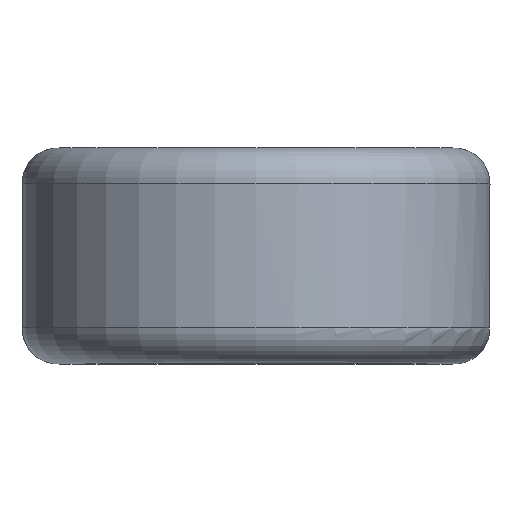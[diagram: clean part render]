
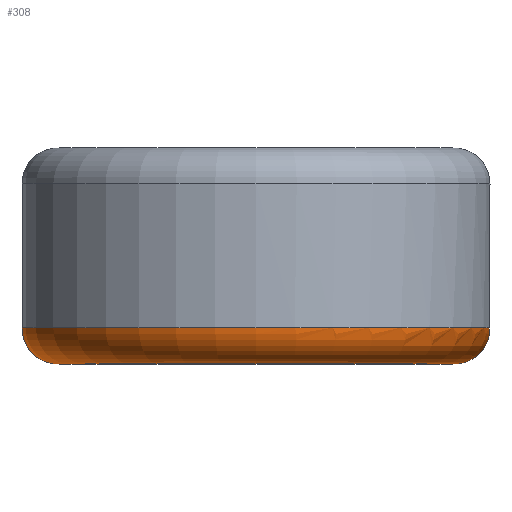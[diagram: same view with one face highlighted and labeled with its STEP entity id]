
A CAD part, top view. The second image highlights one B-rep face of the part: STEP entity #308.
In plain terms, the highlighted toroidal (fillet/blend) face has major radius 5.5 mm and minor radius 1 mm.
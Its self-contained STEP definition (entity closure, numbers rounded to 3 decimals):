
#15=TOROIDAL_SURFACE('',#358,5.5,1.);
#33=B_SPLINE_CURVE_WITH_KNOTS('',3,(#1928,#1929,#1930,#1931),
 .UNSPECIFIED.,.F.,.F.,(4,4),(-0.014,0.),
 .UNSPECIFIED.);
#78=FACE_OUTER_BOUND('',#99,.T.);
#99=EDGE_LOOP('',(#272,#273,#274,#275,#276,#277,#278,#279));
#123=CIRCLE('',#351,6.5);
#124=CIRCLE('',#352,6.5);
#125=CIRCLE('',#353,6.5);
#129=CIRCLE('',#359,5.5);
#130=CIRCLE('',#360,5.5);
#131=CIRCLE('',#361,1.);
#149=VERTEX_POINT('',#1198);
#150=VERTEX_POINT('',#1200);
#151=VERTEX_POINT('',#1202);
#152=VERTEX_POINT('',#1204);
#158=VERTEX_POINT('',#1933);
#159=VERTEX_POINT('',#1934);
#185=EDGE_CURVE('',#149,#150,#123,.T.);
#186=EDGE_CURVE('',#150,#151,#124,.T.);
#188=EDGE_CURVE('',#152,#149,#125,.T.);
#198=EDGE_CURVE('',#152,#151,#33,.T.);
#199=EDGE_CURVE('',#158,#159,#129,.T.);
#200=EDGE_CURVE('',#159,#158,#130,.T.);
#201=EDGE_CURVE('',#159,#150,#131,.T.);
#272=ORIENTED_EDGE('',*,*,#199,.F.);
#273=ORIENTED_EDGE('',*,*,#200,.F.);
#274=ORIENTED_EDGE('',*,*,#201,.T.);
#275=ORIENTED_EDGE('',*,*,#185,.F.);
#276=ORIENTED_EDGE('',*,*,#188,.F.);
#277=ORIENTED_EDGE('',*,*,#198,.T.);
#278=ORIENTED_EDGE('',*,*,#186,.F.);
#279=ORIENTED_EDGE('',*,*,#201,.F.);
#308=ADVANCED_FACE('',(#78),#15,.T.);
#351=AXIS2_PLACEMENT_3D('',#1201,#408,#409);
#352=AXIS2_PLACEMENT_3D('',#1203,#410,#411);
#353=AXIS2_PLACEMENT_3D('',#1317,#412,#413);
#358=AXIS2_PLACEMENT_3D('',#1932,#422,#423);
#359=AXIS2_PLACEMENT_3D('',#1935,#424,#425);
#360=AXIS2_PLACEMENT_3D('',#1936,#426,#427);
#361=AXIS2_PLACEMENT_3D('',#1937,#428,#429);
#408=DIRECTION('center_axis',(0.,1.,0.));
#409=DIRECTION('ref_axis',(-1.,0.,0.));
#410=DIRECTION('center_axis',(0.,1.,0.));
#411=DIRECTION('ref_axis',(-1.,0.,0.));
#412=DIRECTION('center_axis',(0.,1.,0.));
#413=DIRECTION('ref_axis',(-1.,0.,0.));
#422=DIRECTION('center_axis',(0.,-1.,0.));
#423=DIRECTION('ref_axis',(0.,0.,-1.));
#424=DIRECTION('center_axis',(0.,-1.,0.));
#425=DIRECTION('ref_axis',(-1.,0.,0.));
#426=DIRECTION('center_axis',(0.,-1.,0.));
#427=DIRECTION('ref_axis',(-1.,0.,0.));
#428=DIRECTION('center_axis',(-1.,0.,0.));
#429=DIRECTION('ref_axis',(0.,0.,1.));
#1198=CARTESIAN_POINT('',(-6.5,-2.,0.));
#1200=CARTESIAN_POINT('',(0.,-2.,6.5));
#1201=CARTESIAN_POINT('Origin',(0.,-2.,0.));
#1202=CARTESIAN_POINT('',(3.87,-2.,-5.222));
#1203=CARTESIAN_POINT('Origin',(0.,-2.,0.));
#1204=CARTESIAN_POINT('',(3.76,-2.,-5.302));
#1317=CARTESIAN_POINT('Origin',(0.,-2.,0.));
#1928=CARTESIAN_POINT('Ctrl Pts',(3.76,-2.,-5.302));
#1929=CARTESIAN_POINT('Ctrl Pts',(3.797,-2.005,-5.276));
#1930=CARTESIAN_POINT('Ctrl Pts',(3.834,-2.005,-5.249));
#1931=CARTESIAN_POINT('Ctrl Pts',(3.87,-2.,-5.222));
#1932=CARTESIAN_POINT('Origin',(0.,-2.,0.));
#1933=CARTESIAN_POINT('',(5.5,-3.,0.));
#1934=CARTESIAN_POINT('',(0.,-3.,5.5));
#1935=CARTESIAN_POINT('Origin',(0.,-3.,0.));
#1936=CARTESIAN_POINT('Origin',(0.,-3.,0.));
#1937=CARTESIAN_POINT('Origin',(0.,-2.,5.5));
